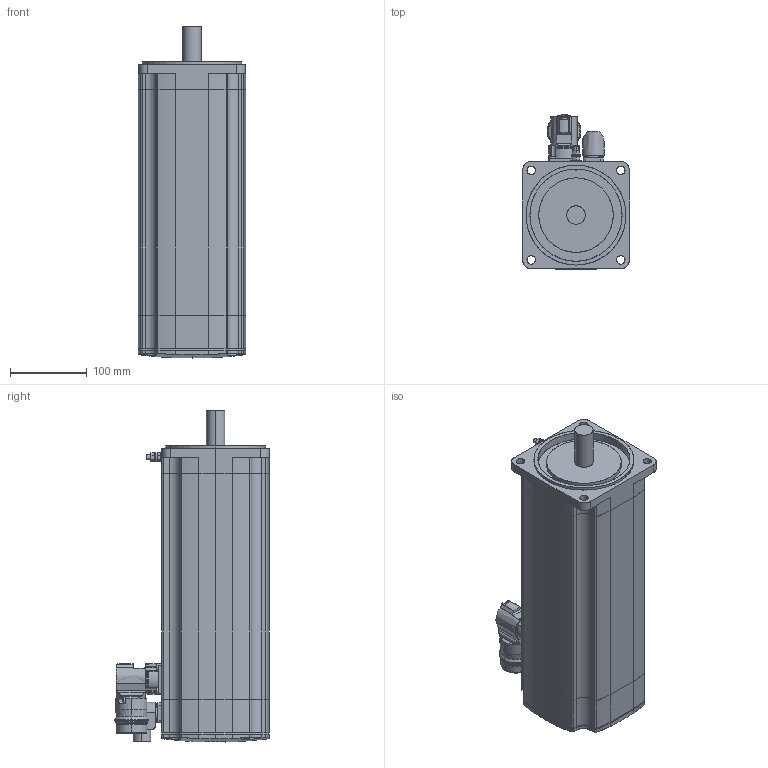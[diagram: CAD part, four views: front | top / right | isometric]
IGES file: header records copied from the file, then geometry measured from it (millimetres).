
Start section: SolidWorks IGES file using analytic representation for surfaces
Global section: file name: C:\PDM\SW-SAP\AA-IGES\SH31404x0xA2100.IGS; native system: SolidWorks 2010; preprocessor: SolidWorks 2010; author: SESA21951; date: 131129.113248; units: millimetre
Bounding box: 140 x 201.5 x 432.35 mm (x, y, z)
Surface area: 414874.1 mm2 (no closed solid volume)
Topology: 0 solids, 0 shells, 750 faces, 9771 edges, 9752 vertices
Faces by surface type: bspline 382, revolution 368
